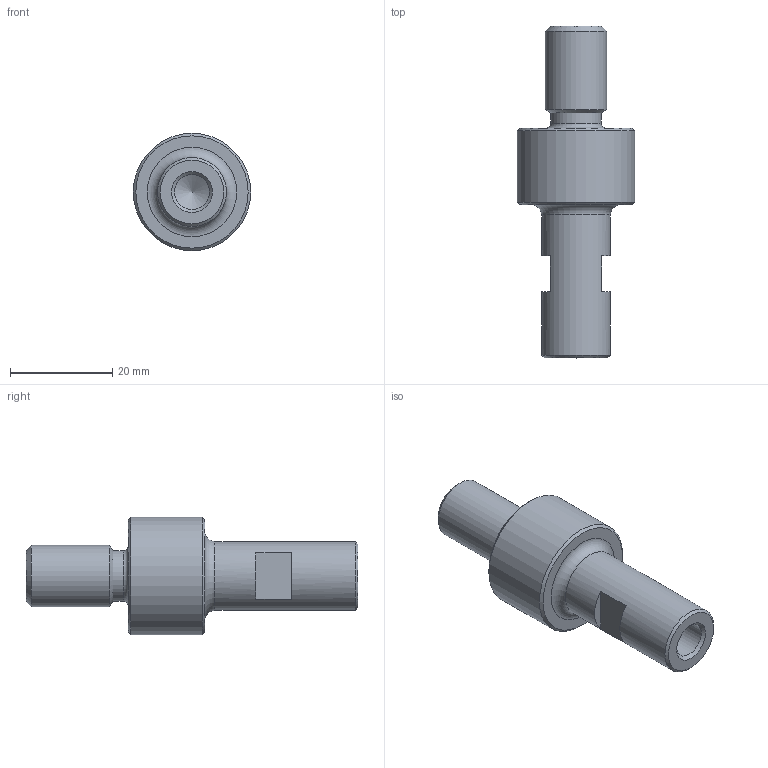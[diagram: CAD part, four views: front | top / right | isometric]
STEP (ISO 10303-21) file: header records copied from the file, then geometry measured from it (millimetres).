
FILE_DESCRIPTION(/* description */ (''),/* implementation_level */ '2;1');
FILE_NAME(/* name */ 'WHEELS-INSERT.27.stp',/* time_stamp */ '2018-05-25T14:29:57+02:00',/* author */ (''),/* organization */ (''),/* preprocessor_version */ 'ST-DEVELOPER v16.7',/* originating_system */ 'SIEMENS PLM Software NX 12.0',/* authorisation */ '');
FILE_SCHEMA (('AP203_CONFIGURATION_CONTROLLED_3D_DESIGN_OF_MECHANICAL_PARTS_AND_ASSEMBLIES_MIM_LF { 1 0 10303 403 2 1 2}'));
Length unit declared in the file: millimetre
Products named in the file (1): turc66A81BAD9zhz
Bounding box: 23 x 65 x 23 mm (x, y, z)
Volume: 11615.9 mm3; surface area: 4393.7 mm2
Topology: 1 solids, 1 shells, 24 faces, 46 edges, 28 vertices
Faces by surface type: plane 10, cone 7, cylinder 5, torus 2
Full cylindrical faces by diameter (mm): 6.8 x1, 9.8 x1, 12 x1, 13.5 x1, 23 x1
Entity records: 616 total; most frequent: DIRECTION 100, CARTESIAN_POINT 80, ORIENTED_EDGE 58, AXIS2_PLACEMENT_3D 46, EDGE_LOOP 42, FACE_BOUND 36, EDGE_CURVE 29, VERTEX_POINT 26
